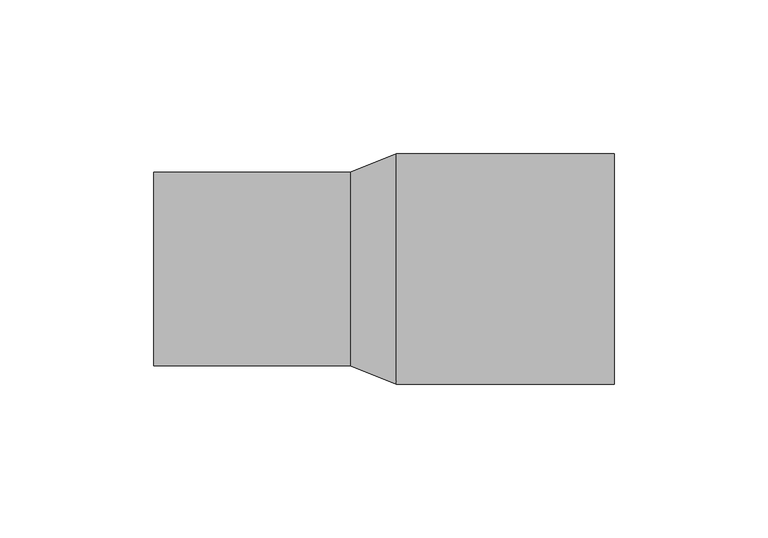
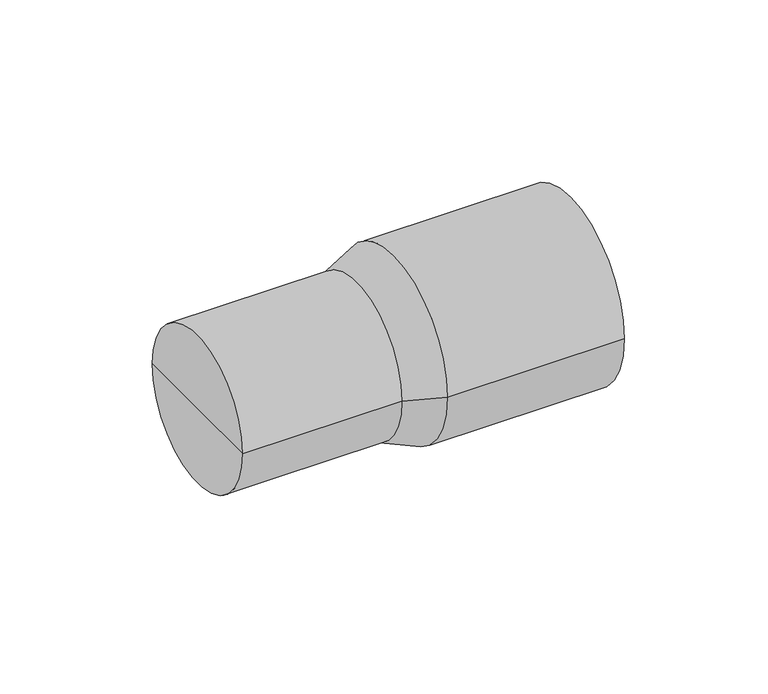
"""IFC4 building model written with IfcOpenShell, lengths in millimetres: pipe fitting geometry, NIRON RED termofusion reduccion macho-macho SDR 11 : Estándar."""

import ifcopenshell
import ifcopenshell.guid

model = None  # the IFC model being written
_history = None  # IfcOwnerHistory: only IFC2X3 demands one
_inside = {}  # id of a spatial element -> (the spatial element, [elements in it])
_under = {}  # id of a project, library or spatial element -> (it, [spatial elements below it])
_declared = {}  # id of a project -> (the project, [libraries it declares])
_typed = {}  # id of a type object -> (the type object, [elements of that type])
_made_of = {}  # id of a material, layer set ... -> (it, [elements and type objects made of it])


def new_model(schema):
    """Start an empty IFC model of exactly this schema.

    Asked for "IFC4X3", IfcOpenShell would pick the latest addendum, in which some entities
    have other attributes; the version numbers below select the first issue.
    IFC2X3 requires an IfcOwnerHistory on every rooted entity: one is made here for all.
    """
    global model, _history
    if schema == "IFC4X3":
        model = ifcopenshell.file(schema_version=(4, 3, 0, 0))
    else:
        model = ifcopenshell.file(schema=schema)
    _inside.clear()
    _under.clear()
    _declared.clear()
    _typed.clear()
    _made_of.clear()
    _history = None
    if model.schema == "IFC2X3":
        org = make("IfcOrganization", Name="unknown")
        user = make(
            "IfcPersonAndOrganization",
            ThePerson=make("IfcPerson", FamilyName="unknown"),
            TheOrganization=org,
        )
        app = make(
            "IfcApplication",
            ApplicationDeveloper=org,
            Version="unknown",
            ApplicationFullName="unknown",
            ApplicationIdentifier="unknown",
        )
        _history = make(
            "IfcOwnerHistory",
            OwningUser=user,
            OwningApplication=app,
            ChangeAction="ADDED",
            CreationDate=0,
        )
    return model


def make(cls, **values):
    """One entity of the class cls with the attributes given. An attribute that is None is left unset."""
    return model.create_entity(
        cls, **{name: value for name, value in values.items() if value is not None}
    )


def rooted(cls, **values):
    """An entity with a GlobalId (a new one), such as an element, a storey or a relation."""
    return make(cls, GlobalId=ifcopenshell.guid.new(), OwnerHistory=_history, **values)


def si_unit(unit_type, name, prefix=None):
    """IfcSIUnit, for example si_unit("LENGTHUNIT", "METRE", prefix="MILLI")."""
    return make("IfcSIUnit", UnitType=unit_type, Prefix=prefix, Name=name)


def assignment(units):
    """IfcUnitAssignment: the units of a project."""
    return None if units is None else make("IfcUnitAssignment", Units=units)


def point(xyz):
    """IfcCartesianPoint."""
    return None if xyz is None else make("IfcCartesianPoint", Coordinates=xyz)


def direction(xyz):
    """IfcDirection."""
    return None if xyz is None else make("IfcDirection", DirectionRatios=xyz)


def frame(location, z_axis=None, x_axis=None):
    """IfcAxis2Placement3D, a coordinate frame: its origin and axes. An axis left out is left unset."""
    return make(
        "IfcAxis2Placement3D",
        Location=point(location),
        Axis=direction(z_axis),
        RefDirection=direction(x_axis),
    )


def origin():
    """The frame at (0, 0, 0) with its axes left unset."""
    return frame((0.0, 0.0, 0.0))


def place(relative_to, where):
    """IfcLocalPlacement: puts the frame where relative to a parent placement (None: the world)."""
    return make(
        "IfcLocalPlacement", PlacementRelTo=relative_to, RelativePlacement=where
    )


def context(
    kind, dimensions, precision=None, world=None, true_north=None, identifier=None
):
    """IfcGeometricRepresentationContext, for example the 3D "Model" context."""
    return make(
        "IfcGeometricRepresentationContext",
        ContextIdentifier=identifier,
        ContextType=kind,
        CoordinateSpaceDimension=dimensions,
        Precision=precision,
        WorldCoordinateSystem=world,
        TrueNorth=true_north,
    )


def project(units=None, contexts=None):
    """IfcProject with its units and contexts."""
    return rooted(
        "IfcProject",
        Name="project",
        RepresentationContexts=contexts,
        UnitsInContext=assignment(units),
    )


def spatial(cls, under=None, at=None, **own):
    """A site, building, storey or space (cls), placed at a placement, below another one or the project."""
    s = rooted(cls, ObjectPlacement=at, **own)
    if under is not None:
        _under.setdefault(under.id(), (under, []))[1].append(s)
    return s


def polyline(points):
    """IfcPolyline through the points."""
    return make("IfcPolyline", Points=[point(p) for p in points])


def circle_curve(where, radius):
    """IfcCircle in the frame where."""
    return make("IfcCircle", Position=where, Radius=radius)


def shape(context_of_items, identifier, shape_type, items):
    """IfcShapeRepresentation: the items that make up one representation, for example the "Body"."""
    return make(
        "IfcShapeRepresentation",
        ContextOfItems=context_of_items,
        RepresentationIdentifier=identifier,
        RepresentationType=shape_type,
        Items=items,
    )


def source(mapping_origin, context_of_items, identifier, shape_type, items):
    """IfcRepresentationMap: a shape defined once, which mapped items show again and again."""
    return make(
        "IfcRepresentationMap",
        MappingOrigin=mapping_origin,
        MappedRepresentation=shape(context_of_items, identifier, shape_type, items),
    )


def transform(
    local_origin,
    x_axis=None,
    y_axis=None,
    z_axis=None,
    scale=None,
    scale2=None,
    scale3=None,
    uniform=True,
):
    """IfcCartesianTransformationOperator3D, or its non-uniform kind. x_axis, y_axis, z_axis: its Axis1, 2, 3."""
    if uniform:
        return make(
            "IfcCartesianTransformationOperator3D",
            Axis1=direction(x_axis),
            Axis2=direction(y_axis),
            LocalOrigin=point(local_origin),
            Scale=scale,
            Axis3=direction(z_axis),
        )
    return make(
        "IfcCartesianTransformationOperator3DnonUniform",
        Axis1=direction(x_axis),
        Axis2=direction(y_axis),
        LocalOrigin=point(local_origin),
        Scale=scale,
        Axis3=direction(z_axis),
        Scale2=scale2,
        Scale3=scale3,
    )


def mapped(mapping_source, mapping_target):
    """IfcMappedItem: shows the shape of a source again, moved by a transform."""
    return make(
        "IfcMappedItem", MappingSource=mapping_source, MappingTarget=mapping_target
    )


def made_of(thing, what):
    """Note that an element or type object is made of a material, layer set ...; save() writes the relation."""
    if what is not None:
        _made_of.setdefault(what.id(), (what, []))[1].append(thing)
    return thing


def element(
    cls,
    number,
    at=None,
    inside=None,
    cuts=None,
    type_object=None,
    material=None,
    context=None,
    identifier="Body",
    shape_type=None,
    held_by="IfcProductDefinitionShape",
    body=None,
    shapes=None,
    **own,
):
    """One element of the class cls, such as IfcWall. Its Tag is "e" and its number.

    at: its placement. inside: the storey or other place that contains it. cuts: it is an
    opening in that element (IfcRelVoidsElement). A single representation is given by context,
    identifier, shape_type and body (its items); several are given by shapes. held_by: the class
    of the entity that holds the representations. save() writes the other relations.
    """
    e = rooted(cls, Tag="e%d" % number, ObjectPlacement=at, **own)
    if body is not None:
        shapes = [shape(context, identifier, shape_type, body)]
    if shapes is not None:
        e.Representation = make(held_by, Representations=shapes)
    if inside is not None:
        _inside.setdefault(inside.id(), (inside, []))[1].append(e)
    if cuts is not None:
        rooted(
            "IfcRelVoidsElement", RelatingBuildingElement=cuts, RelatedOpeningElement=e
        )
    if type_object is not None:
        _typed.setdefault(type_object.id(), (type_object, []))[1].append(e)
    return made_of(e, material)


def aggregate(whole, parts):
    """IfcRelAggregates: a whole, such as a stair, and the parts it consists of."""
    return rooted("IfcRelAggregates", RelatingObject=whole, RelatedObjects=parts)


def save(model, path):
    """Write the relations noted so far, then the file.

    IfcRelAggregates (storeys below a building ...), IfcRelContainedInSpatialStructure (elements
    in a storey), IfcRelDefinesByType, IfcRelAssociatesMaterial and IfcRelDeclares: one each for
    every whole, place, type object, material and project.
    """
    for whole, parts in _under.values():
        aggregate(whole, parts)
    for where, things in _inside.values():
        rooted(
            "IfcRelContainedInSpatialStructure",
            RelatedElements=things,
            RelatingStructure=where,
        )
    for kind, things in _typed.values():
        rooted("IfcRelDefinesByType", RelatedObjects=things, RelatingType=kind)
    for what, things in _made_of.values():
        rooted("IfcRelAssociatesMaterial", RelatedObjects=things, RelatingMaterial=what)
    for by, libraries in _declared.values():
        rooted("IfcRelDeclares", RelatingContext=by, RelatedDefinitions=libraries)
    model.write(path)


def plane_surface(at):
    """IfcPlane: the flat surface through the origin of the frame at, square to its z axis."""
    return make("IfcPlane", Position=at)


def cylinder_surface(at, radius):
    """IfcCylindricalSurface: all points at the distance radius from the z axis of the frame at."""
    return make("IfcCylindricalSurface", Position=at, Radius=radius)


def revolved_surface(curve, axis_point, axis_direction):
    """IfcSurfaceOfRevolution: the curve turned about the line through axis_point along axis_direction."""
    return make(
        "IfcSurfaceOfRevolution",
        SweptCurve=make("IfcArbitraryOpenProfileDef", ProfileType="CURVE", Curve=curve),
        AxisPosition=make("IfcAxis1Placement", Location=point(axis_point), Axis=direction(axis_direction)),
    )


def advanced_brep(points, edges, surfaces, faces):
    """IfcAdvancedBrep: a solid bounded by faces that lie on surfaces and meet in shared edges.

    An edge is (start, end): straight between two places in points (the first is 0);
    or (start, end, curve); or (start, end, curve, False) where it runs against its curve.
    A face is (place in surfaces, loops), or (place, loops, False) where it looks against
    its surface's normal. A loop lists edges by number (the first is 1), with a minus sign
    where the edge is run from its end to its start. The first loop is the outer one.
    """
    corners = [point(p) for p in points]
    vertices = [make("IfcVertexPoint", VertexGeometry=c) for c in corners]
    made = []
    for start, end, *more in edges:
        made.append(
            make(
                "IfcEdgeCurve",
                EdgeStart=vertices[start],
                EdgeEnd=vertices[end],
                EdgeGeometry=more[0] if more else make("IfcPolyline", Points=[corners[start], corners[end]]),
                SameSense=more[1] if len(more) > 1 else True,
            )
        )
    hull = []
    for where, loops, *sense in faces:
        bounds = []
        for j, loop in enumerate(loops):
            ring = [make("IfcOrientedEdge", EdgeElement=made[abs(k) - 1], Orientation=k > 0) for k in loop]
            bounds.append(
                make(
                    "IfcFaceOuterBound" if j == 0 else "IfcFaceBound",
                    Bound=make("IfcEdgeLoop", EdgeList=ring),
                    Orientation=True,
                )
            )
        hull.append(make("IfcAdvancedFace", Bounds=bounds, FaceSurface=surfaces[where], SameSense=sense[0] if sense else True))
    return make("IfcAdvancedBrep", Outer=make("IfcClosedShell", CfsFaces=hull))


def pipe_fitting_b54afa11(model_context):
    return source(origin(), model_context, "Body", "AdvancedBrep", [
        advanced_brep(
        [(0.0, -31.5, 0.0), (0.0, 31.5, 0.0), (64.0, 31.5, 0.0), (64.0, -31.5, 0.0), (0.0, 0.0, 0.0), (150.0, -37.5, 0.0), (150.0, 37.5, 0.0), (150.0, 0.0, 0.0), (79.0, -37.5, 0.0), (79.0, 37.5, 0.0)],
        [
            (0, 1, circle_curve(frame((0.0, 0.0, 0.0), z_axis=(1.0, 0.0, 0.0), x_axis=(0.0, 1.0, 0.0)), 31.5)),
            (1, 2),
            (2, 3, circle_curve(frame((64.0, 0.0, 0.0), z_axis=(-1.0, 0.0, 0.0), x_axis=(0.0, 1.0, 0.0)), 31.5)),
            (3, 0),
            (1, 0, circle_curve(frame((0.0, 0.0, 0.0), z_axis=(1.0, 0.0, 0.0), x_axis=(0.0, 1.0, 0.0)), 31.5)),
            (3, 2, circle_curve(frame((64.0, 0.0, 0.0), z_axis=(-1.0, 0.0, 0.0), x_axis=(0.0, 1.0, 0.0)), 31.5)),
            (4, 1),
            (0, 4),
            (5, 6, circle_curve(frame((150.0, 0.0, 0.0), z_axis=(1.0, 0.0, 0.0), x_axis=(0.0, 1.0, 0.0)), 37.5)),
            (6, 7),
            (7, 5),
            (6, 5, circle_curve(frame((150.0, 0.0, 0.0), z_axis=(1.0, 0.0, 0.0), x_axis=(0.0, 1.0, 0.0)), 37.5)),
            (8, 9, circle_curve(frame((79.0, 0.0, 0.0), z_axis=(1.0, 0.0, 0.0), x_axis=(0.0, 1.0, 0.0)), 37.5)),
            (9, 6),
            (5, 8),
            (9, 8, circle_curve(frame((79.0, 0.0, 0.0), z_axis=(1.0, 0.0, 0.0), x_axis=(0.0, 1.0, 0.0)), 37.5)),
            (2, 9),
            (8, 3),
        ],
        [
            cylinder_surface(frame((2000.0, 0.0, 0.0), z_axis=(-1.0, 0.0, 0.0), x_axis=(0.0, 1.0, 0.0)), 31.5),
            plane_surface(frame((0.0, 0.0, 0.0), z_axis=(-1.0, 0.0, 0.0), x_axis=(0.0, 1.0, 0.0))),
            plane_surface(frame((150.0, 0.0, 0.0), z_axis=(1.0, 0.0, 0.0), x_axis=(0.0, 1.0, 0.0))),
            cylinder_surface(frame((2000.0, 0.0, 0.0), z_axis=(-1.0, 0.0, 0.0), x_axis=(0.0, 1.0, 0.0)), 37.5),
            revolved_surface(polyline([(79.0, 37.5, 0.0), (64.0, 31.5, 0.0)]), (2000.0, 0.0, 0.0), (-1.0, 0.0, 0.0)),
        ],
        [
            (0, [[1, 2, 3, 4]]),
            (0, [[5, -4, 6, -2]]),
            (1, [[7, -1, 8]]),
            (1, [[-8, -5, -7]]),
            (2, [[9, 10, 11]]),
            (2, [[12, -11, -10]]),
            (3, [[13, 14, -9, 15]]),
            (3, [[16, -15, -12, -14]]),
            (4, [[-3, 17, -13, 18]]),
            (4, [[-6, -18, -16, -17]]),
        ],
    ),
    ])


if __name__ == "__main__":
    model = new_model("IFC4")
    model_context = context("Model", 3, world=origin())
    ifc_project = project(units=[si_unit("LENGTHUNIT", "METRE", prefix="MILLI")], contexts=[model_context])
    site = spatial("IfcSite", under=ifc_project)
    building = spatial("IfcBuilding", under=site)
    placement = place(None, origin())
    pipe_fitting_shape = pipe_fitting_b54afa11(model_context)
    element("IfcPipeFitting", 1, ObjectType="NIRON RED termofusion reduccion macho-macho SDR 11 : Estándar", at=placement, inside=building, context=model_context, shape_type="MappedRepresentation", body=[
        mapped(pipe_fitting_shape, transform((0.0, 0.0, 0.0), x_axis=(1.0, 0.0, 0.0), y_axis=(0.0, 1.0, 0.0), z_axis=(0.0, 0.0, 1.0))),
    ])
    save(model, "model.ifc")
